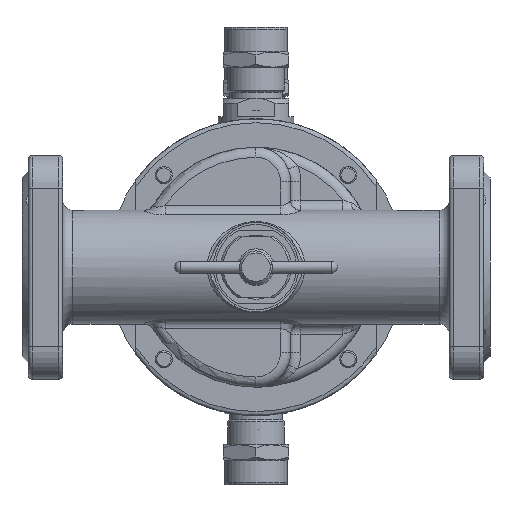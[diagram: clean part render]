
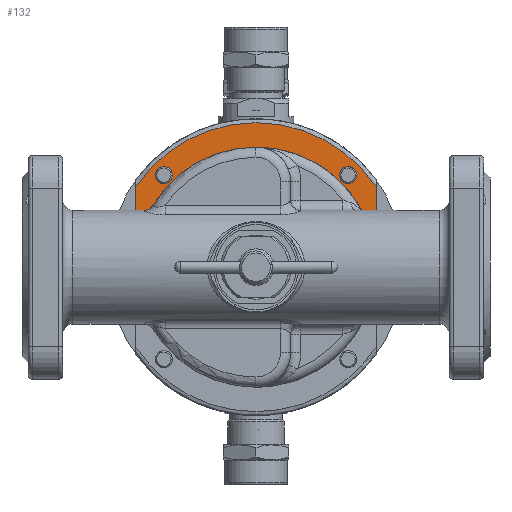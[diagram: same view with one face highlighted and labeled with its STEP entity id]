
A CAD part, front view. The second image highlights one B-rep face of the part: STEP entity #132.
In plain terms, the highlighted planar face has unit normal (0, -1, 0).
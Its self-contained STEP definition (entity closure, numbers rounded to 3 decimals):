
#132=ADVANCED_FACE('',(#4643,#4645,#4647),#4649,.F.);
#4643=FACE_BOUND('',#4644,.T.);
#4644=EDGE_LOOP('',(#23261));
#4645=FACE_BOUND('',#4646,.T.);
#4646=EDGE_LOOP('',(#23262));
#4647=FACE_OUTER_BOUND('',#4648,.T.);
#4648=EDGE_LOOP('',(#23263,#23264,#23265,#23266));
#4649=PLANE('',#4650);
#4650=AXIS2_PLACEMENT_3D('',#4651,#4652,#4653);
#4651=CARTESIAN_POINT('',(0.,39.5,0.));
#4652=DIRECTION('',(0.,1.,0.));
#4653=DIRECTION('',(-1.,0.,0.));
#23261=ORIENTED_EDGE('',*,*,#35694,.T.);
#23262=ORIENTED_EDGE('',*,*,#35741,.T.);
#23263=ORIENTED_EDGE('',*,*,#35742,.F.);
#23264=ORIENTED_EDGE('',*,*,#35743,.F.);
#23265=ORIENTED_EDGE('',*,*,#35744,.F.);
#23266=ORIENTED_EDGE('',*,*,#35745,.F.);
#35694=EDGE_CURVE('',#41002,#41002,#41004,.T.);
#35741=EDGE_CURVE('',#41088,#41088,#41089,.T.);
#35742=EDGE_CURVE('',#41090,#41091,#41092,.T.);
#35743=EDGE_CURVE('',#41093,#41090,#41094,.T.);
#35744=EDGE_CURVE('',#41095,#41093,#41096,.T.);
#35745=EDGE_CURVE('',#41091,#41095,#41097,.T.);
#41002=VERTEX_POINT('',#49764);
#41004=CIRCLE('',#49768,4.188);
#41088=VERTEX_POINT('',#49976);
#41089=CIRCLE('',#49977,4.188);
#41090=VERTEX_POINT('',#49981);
#41091=VERTEX_POINT('',#49982);
#41092=CIRCLE('',#49983,71.);
#41093=VERTEX_POINT('',#49987);
#41094=LINE('',#49988,#49989);
#41095=VERTEX_POINT('',#49991);
#41096=CIRCLE('',#49992,59.);
#41097=LINE('',#49996,#49997);
#49764=CARTESIAN_POINT('',(41.067,39.5,45.255));
#49768=AXIS2_PLACEMENT_3D('',#49769,#49770,#49771);
#49769=CARTESIAN_POINT('',(45.255,39.5,45.255));
#49770=DIRECTION('',(0.,1.,0.));
#49771=DIRECTION('',(-1.,0.,0.));
#49976=CARTESIAN_POINT('',(-49.443,39.5,45.255));
#49977=AXIS2_PLACEMENT_3D('',#49978,#49979,#49980);
#49978=CARTESIAN_POINT('',(-45.255,39.5,45.255));
#49979=DIRECTION('',(0.,1.,0.));
#49980=DIRECTION('',(-1.,0.,0.));
#49981=CARTESIAN_POINT('',(-59.,39.5,39.497));
#49982=CARTESIAN_POINT('',(59.,39.5,39.497));
#49983=AXIS2_PLACEMENT_3D('',#49984,#49985,#49986);
#49984=CARTESIAN_POINT('',(0.,39.5,0.));
#49985=DIRECTION('',(0.,1.,0.));
#49986=DIRECTION('',(-0.831,0.,0.556));
#49987=CARTESIAN_POINT('',(-59.,39.5,0.));
#49988=CARTESIAN_POINT('',(-59.,39.5,0.));
#49989=VECTOR('',#49990,1.);
#49990=DIRECTION('',(0.,0.,1.));
#49991=CARTESIAN_POINT('',(59.,39.5,0.));
#49992=AXIS2_PLACEMENT_3D('',#49993,#49994,#49995);
#49993=CARTESIAN_POINT('',(0.,39.5,0.));
#49994=DIRECTION('',(0.,-1.,0.));
#49995=DIRECTION('',(1.,0.,0.));
#49996=CARTESIAN_POINT('',(59.,39.5,39.497));
#49997=VECTOR('',#49998,1.);
#49998=DIRECTION('',(0.,0.,-1.));
